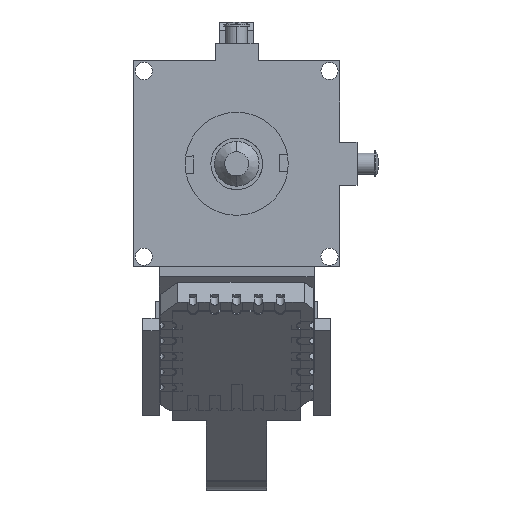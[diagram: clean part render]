
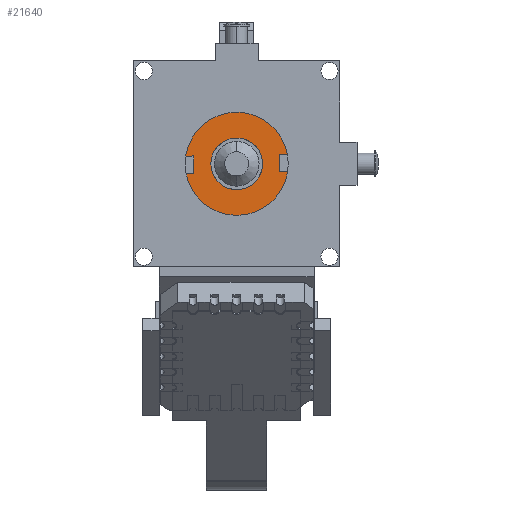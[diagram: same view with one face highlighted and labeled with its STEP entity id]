
A CAD part, front view. The second image highlights one B-rep face of the part: STEP entity #21640.
In plain terms, the highlighted planar face has unit normal (0, -1, 0) as drawn and (1, 0, 0) by its records, which use the part's own axes.
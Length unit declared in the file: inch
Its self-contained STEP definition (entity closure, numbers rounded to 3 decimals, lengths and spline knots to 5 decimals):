
#182 = VECTOR ( 'NONE', #14807, 39.37008 ) ;
#1184 = LINE ( 'NONE', #37754, #39678 ) ;
#1555 = ORIENTED_EDGE ( 'NONE', *, *, #3968, .T. ) ;
#1574 = CARTESIAN_POINT ( 'NONE',  ( 0.1929, 0.00225, -0.12793 ) ) ;
#1696 = PLANE ( 'NONE',  #4290 ) ;
#1758 = CARTESIAN_POINT ( 'NONE',  ( 0.1929, 0., 0. ) ) ;
#1783 = EDGE_CURVE ( 'NONE', #12326, #14638, #20493, .T. ) ;
#1995 = EDGE_CURVE ( 'NONE', #10425, #26652, #2156, .T. ) ;
#2156 = CIRCLE ( 'NONE', #7388, 0.12795 ) ;
#2248 = CARTESIAN_POINT ( 'NONE',  ( 0.1929, -0.00104, 0.05905 ) ) ;
#2270 = DIRECTION ( 'NONE',  ( 0., 0.018, -1. ) ) ;
#2357 = LINE ( 'NONE', #45077, #20597 ) ;
#3448 = ORIENTED_EDGE ( 'NONE', *, *, #16323, .T. ) ;
#3968 = EDGE_CURVE ( 'NONE', #4996, #16050, #24623, .T. ) ;
#4290 = AXIS2_PLACEMENT_3D ( 'NONE', #41538, #9243, #9004 ) ;
#4305 = AXIS2_PLACEMENT_3D ( 'NONE', #38175, #37951, #9386 ) ;
#4383 = CIRCLE ( 'NONE', #19477, 0.12795 ) ;
#4996 = VERTEX_POINT ( 'NONE', #2248 ) ;
#5060 = DIRECTION ( 'NONE',  ( -1., 0., 0. ) ) ;
#6224 = EDGE_CURVE ( 'NONE', #10485, #22897, #4383, .T. ) ;
#7388 = AXIS2_PLACEMENT_3D ( 'NONE', #37696, #45226, #2270 ) ;
#7499 = LINE ( 'NONE', #14342, #182 ) ;
#8141 = EDGE_CURVE ( 'NONE', #22897, #12672, #7499, .T. ) ;
#8916 = ORIENTED_EDGE ( 'NONE', *, *, #1995, .T. ) ;
#9004 = DIRECTION ( 'NONE',  ( 0., 0.018, -1. ) ) ;
#9005 = CARTESIAN_POINT ( 'NONE',  ( 0.1929, 0.09876, -0.01795 ) ) ;
#9243 = DIRECTION ( 'NONE',  ( 1., 0., 0. ) ) ;
#9326 = ORIENTED_EDGE ( 'NONE', *, *, #29357, .T. ) ;
#9386 = DIRECTION ( 'NONE',  ( 0., 0.018, -1. ) ) ;
#10425 = VERTEX_POINT ( 'NONE', #18548 ) ;
#10485 = VERTEX_POINT ( 'NONE', #1574 ) ;
#11517 = CARTESIAN_POINT ( 'NONE',  ( 0.1929, -0.12606, -0.02191 ) ) ;
#11545 = EDGE_LOOP ( 'NONE', ( #33715, #3448, #12494, #17535, #39812, #22793, #8916, #38409, #19200 ) ) ;
#11818 = CARTESIAN_POINT ( 'NONE',  ( 0.1929, -0.12676, 0.01746 ) ) ;
#12326 = VERTEX_POINT ( 'NONE', #40410 ) ;
#12494 = ORIENTED_EDGE ( 'NONE', *, *, #6224, .T. ) ;
#12672 = VERTEX_POINT ( 'NONE', #9005 ) ;
#12736 = AXIS2_PLACEMENT_3D ( 'NONE', #18106, #39346, #43581 ) ;
#13678 = LINE ( 'NONE', #28085, #40627 ) ;
#14342 = CARTESIAN_POINT ( 'NONE',  ( 0.1929, 0.05939, -0.01864 ) ) ;
#14638 = VERTEX_POINT ( 'NONE', #11517 ) ;
#14807 = DIRECTION ( 'NONE',  ( 0., -1., -0.018 ) ) ;
#16035 = CARTESIAN_POINT ( 'NONE',  ( 0.1929, -0.09841, -0.00173 ) ) ;
#16050 = VERTEX_POINT ( 'NONE', #32327 ) ;
#16130 = CARTESIAN_POINT ( 'NONE',  ( 0.1929, -0.09876, 0.01795 ) ) ;
#16323 = EDGE_CURVE ( 'NONE', #14638, #10485, #27047, .T. ) ;
#16925 = CARTESIAN_POINT ( 'NONE',  ( 0.1929, 0.05939, -0.01864 ) ) ;
#17535 = ORIENTED_EDGE ( 'NONE', *, *, #8141, .T. ) ;
#17688 = DIRECTION ( 'NONE',  ( 0., 1., 0.018 ) ) ;
#17965 = CARTESIAN_POINT ( 'NONE',  ( 0.1929, 0., 0. ) ) ;
#18106 = CARTESIAN_POINT ( 'NONE',  ( 0.1929, 0., 0. ) ) ;
#18372 = EDGE_CURVE ( 'NONE', #26652, #23252, #13678, .T. ) ;
#18548 = CARTESIAN_POINT ( 'NONE',  ( 0.1929, 0.12606, 0.02191 ) ) ;
#19200 = ORIENTED_EDGE ( 'NONE', *, *, #19577, .T. ) ;
#19446 = DIRECTION ( 'NONE',  ( 0., 0.018, -1. ) ) ;
#19477 = AXIS2_PLACEMENT_3D ( 'NONE', #17965, #24835, #21280 ) ;
#19577 = EDGE_CURVE ( 'NONE', #23252, #12326, #20276, .T. ) ;
#19598 = DIRECTION ( 'NONE',  ( 0., 0.018, -1. ) ) ;
#20276 = LINE ( 'NONE', #16035, #36975 ) ;
#20493 = LINE ( 'NONE', #16925, #37553 ) ;
#20597 = VECTOR ( 'NONE', #27572, 39.37008 ) ;
#21280 = DIRECTION ( 'NONE',  ( 0., 0.018, -1. ) ) ;
#21640 = ADVANCED_FACE ( 'NONE', ( #27582, #41769 ), #1696, .T. ) ;
#22793 = ORIENTED_EDGE ( 'NONE', *, *, #29893, .T. ) ;
#22897 = VERTEX_POINT ( 'NONE', #24248 ) ;
#23252 = VERTEX_POINT ( 'NONE', #16130 ) ;
#24248 = CARTESIAN_POINT ( 'NONE',  ( 0.1929, 0.12676, -0.01746 ) ) ;
#24404 = EDGE_LOOP ( 'NONE', ( #9326, #1555 ) ) ;
#24623 = CIRCLE ( 'NONE', #4305, 0.05906 ) ;
#24835 = DIRECTION ( 'NONE',  ( 1., 0., 0. ) ) ;
#26652 = VERTEX_POINT ( 'NONE', #11818 ) ;
#27047 = CIRCLE ( 'NONE', #12736, 0.12795 ) ;
#27572 = DIRECTION ( 'NONE',  ( 0., -0.018, 1. ) ) ;
#27582 = FACE_BOUND ( 'NONE', #24404, .T. ) ;
#28085 = CARTESIAN_POINT ( 'NONE',  ( 0.1929, 0.0587, 0.02072 ) ) ;
#29357 = EDGE_CURVE ( 'NONE', #16050, #4996, #35952, .T. ) ;
#29893 = EDGE_CURVE ( 'NONE', #39470, #10425, #1184, .T. ) ;
#29932 = DIRECTION ( 'NONE',  ( 0., 1., 0.018 ) ) ;
#31109 = DIRECTION ( 'NONE',  ( 0., -1., -0.018 ) ) ;
#32327 = CARTESIAN_POINT ( 'NONE',  ( 0.1929, 0.00104, -0.05905 ) ) ;
#33098 = CARTESIAN_POINT ( 'NONE',  ( 0.1929, 0.09806, 0.02141 ) ) ;
#33715 = ORIENTED_EDGE ( 'NONE', *, *, #1783, .T. ) ;
#35430 = EDGE_CURVE ( 'NONE', #12672, #39470, #2357, .T. ) ;
#35952 = CIRCLE ( 'NONE', #41259, 0.05906 ) ;
#36975 = VECTOR ( 'NONE', #19598, 39.37008 ) ;
#37553 = VECTOR ( 'NONE', #31109, 39.37008 ) ;
#37696 = CARTESIAN_POINT ( 'NONE',  ( 0.1929, 0., 0. ) ) ;
#37754 = CARTESIAN_POINT ( 'NONE',  ( 0.1929, 0.0587, 0.02072 ) ) ;
#37951 = DIRECTION ( 'NONE',  ( -1., 0., 0. ) ) ;
#38175 = CARTESIAN_POINT ( 'NONE',  ( 0.1929, 0., 0. ) ) ;
#38409 = ORIENTED_EDGE ( 'NONE', *, *, #18372, .T. ) ;
#39346 = DIRECTION ( 'NONE',  ( 1., 0., 0. ) ) ;
#39470 = VERTEX_POINT ( 'NONE', #33098 ) ;
#39678 = VECTOR ( 'NONE', #29932, 39.37008 ) ;
#39812 = ORIENTED_EDGE ( 'NONE', *, *, #35430, .T. ) ;
#40410 = CARTESIAN_POINT ( 'NONE',  ( 0.1929, -0.09806, -0.02141 ) ) ;
#40627 = VECTOR ( 'NONE', #17688, 39.37008 ) ;
#41259 = AXIS2_PLACEMENT_3D ( 'NONE', #1758, #5060, #19446 ) ;
#41538 = CARTESIAN_POINT ( 'NONE',  ( 0.1929, 0.05905, 0.00104 ) ) ;
#41769 = FACE_OUTER_BOUND ( 'NONE', #11545, .T. ) ;
#43581 = DIRECTION ( 'NONE',  ( 0., 0.018, -1. ) ) ;
#45077 = CARTESIAN_POINT ( 'NONE',  ( 0.1929, 0.09841, 0.00173 ) ) ;
#45226 = DIRECTION ( 'NONE',  ( 1., 0., 0. ) ) ;
